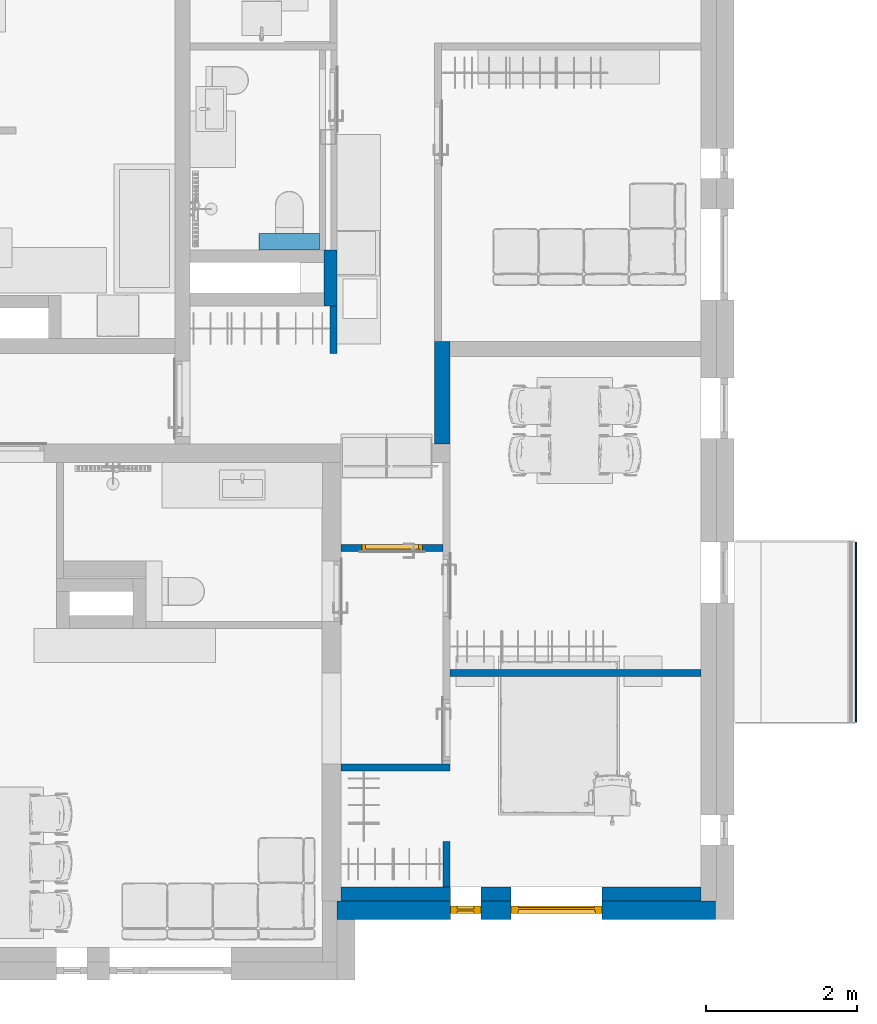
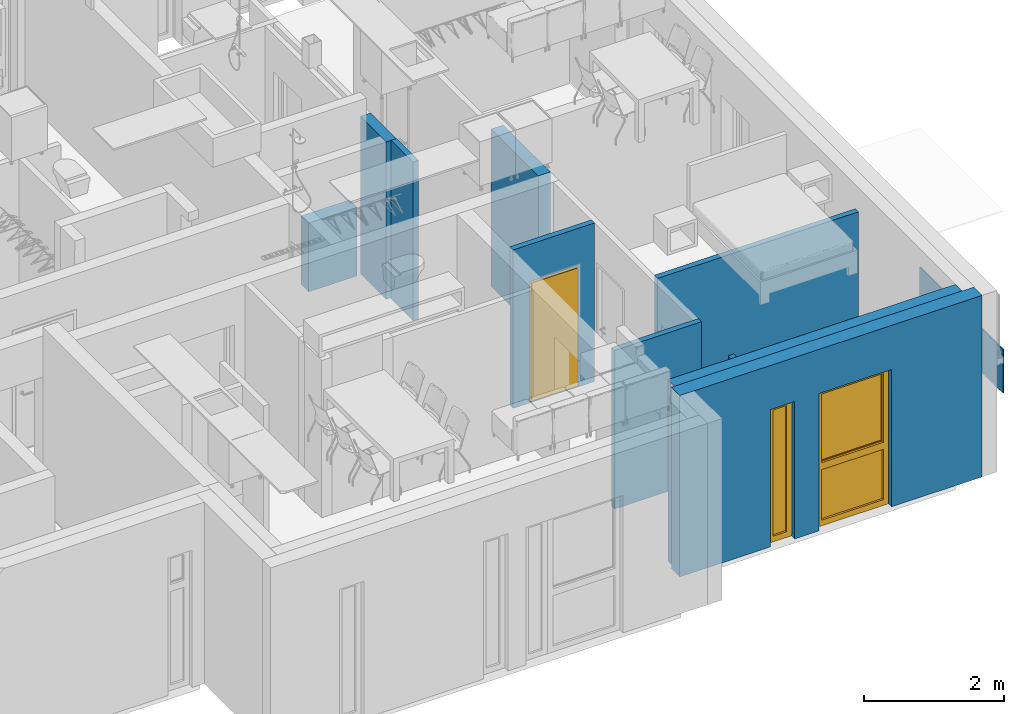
# One storey, part 7 of 68: 11 walls, 2 windows, 1 door, 5 openings.
"""IFC2X3 building model written with IfcOpenShell, lengths in millimetres."""

from ifc_helpers import new_model, entity, si_unit, converted_unit, direction, frame, frame_2d, origin, place, context, subcontext, project, spatial, rectangle, extrude, faceted_brep, source, transform, mapped, material, material_list, layer, layer_set, layer_usage, type_object, type_shapes, element, fill, save


model = new_model("IFC2X3")

# Units and contexts
model_context = context("Model", 3, precision=0.01, world=origin(), true_north=direction((6.123233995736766e-17, 1.0)))
plan_context = context("Plan", 3, precision=0.01, world=origin(), true_north=direction((6.123233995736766e-17, 1.0)))
body_context = subcontext(model_context, "Body", "Model", "MODEL_VIEW")
ifc_project = project(units=[si_unit("LENGTHUNIT", "METRE", prefix="MILLI"), converted_unit("PLANEANGLEUNIT", "DEGREE", entity("IfcPlaneAngleMeasure", 0.017453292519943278), si_unit("PLANEANGLEUNIT", "RADIAN"), dimensions=[0, 0, 0, 0, 0, 0, 0]), si_unit("AREAUNIT", "SQUARE_METRE")], contexts=[model_context, plan_context])

# Site, building, storey
site_placement = place(None, origin())
site = spatial("IfcSite", under=ifc_project, at=site_placement, Name="Default", CompositionType="ELEMENT")
building_placement = place(site_placement, origin())
building = spatial("IfcBuilding", under=site, at=building_placement, CompositionType="ELEMENT")
storey_placement = place(building_placement, frame((0.0, 0.0, 6295.0)))
storey = spatial("IfcBuildingStorey", under=building, at=storey_placement, Name="3K", CompositionType="ELEMENT", Elevation=6294.999999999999)

# Wall
ifc_material_1 = material(Name="_K. Väisviimistlus. Krohv. Valge")
ifc_layer_1 = layer(ifc_material_1, 5.0)
ifc_material_2 = material(Name="_K. Müüritis. Väikeplokk. Betoon-õõnesplokk")
ifc_layer_2 = layer(ifc_material_2, 190.00000000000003)
ifc_layer_3 = layer(ifc_material_1, 5.0)
ifc_layer_set_1 = layer_set([ifc_layer_1, ifc_layer_2, ifc_layer_3], Name="Basic Wall:SS-01. 190")
ifc_layer_usage_1 = layer_usage(ifc_layer_set_1, "AXIS2", "NEGATIVE", 100.00000000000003)
wall_type_1 = type_object("IfcWallType", Name="Basic Wall:SS-01. 190", PredefinedType="STANDARD", material=ifc_layer_set_1)
wall_1_placement = place(storey_placement, frame((13480.0, 6644.999959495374, 0.0), z_axis=(0.0, 0.0, 1.0), x_axis=(0.0, 1.0, 0.0)))
element("IfcWallStandardCase", 1, at=wall_1_placement, inside=storey, type_object=wall_type_1, material=ifc_layer_usage_1, Name="Basic Wall:SS-01. 190", ObjectType="Basic Wall:SS-01. 190", context=body_context, shape_type="SweptSolid", body=[
    extrude(rectangle(XDim=1354.999999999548, YDim=200.00000000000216, at=frame_2d((677.499999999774, 7.105427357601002e-15), x_axis=(-1.0, 0.0))), origin(), (0.0, 0.0, 1.0), 2750.000076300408),
])

# Wall, openings
ifc_layer_4 = layer(ifc_material_2, 190.00000000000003)
ifc_layer_set_2 = layer_set([ifc_layer_4], Name="Basic Wall:Columbia 190mm")
ifc_layer_usage_2 = layer_usage(ifc_layer_set_2, "AXIS2", "NEGATIVE", 95.00000000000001)
wall_type_2 = type_object("IfcWallType", Name="Basic Wall:Columbia 190mm", PredefinedType="STANDARD", material=ifc_layer_set_2)
wall_2_placement = place(storey_placement, frame((16900.0, 705.0, 0.0), z_axis=(0.0, 0.0, 1.0), x_axis=(-1.0, 0.0, 0.0)))
wall_2 = element("IfcWallStandardCase", 2, at=wall_2_placement, inside=storey, type_object=wall_type_2, material=ifc_layer_usage_2, Name="Basic Wall:Columbia 190mm", ObjectType="Basic Wall:Columbia 190mm", context=body_context, shape_type="SweptSolid", body=[
    extrude(rectangle(XDim=4755.006465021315, YDim=190.0000000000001, at=frame_2d((2377.5032325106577, 7.105427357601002e-15), x_axis=(-1.0, 0.0))), origin(), (0.0, 0.0, 1.0), 3169.999999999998),
])
opening_1_placement = place(wall_2_placement, frame((16900.0, 705.0, 0.0)))
element("IfcOpeningElement", 3, at=opening_1_placement, cuts=wall_2, Name="Basic Wall:Columbia 190mm", ObjectType="Opening", context=body_context, shape_type="Brep", body=[
    faceted_brep([(-14390.0, -350.0, 2400.0), (-14390.0, -1044.0, 2400.0), (-14390.0, -1044.0, 0.0), (-14390.0, -460.0, 0.0), (-14390.0, -450.0, 0.0), (-14390.0, -350.0, 0.0), (-15590.0, -350.0, 2400.0), (-15590.0, -1044.0, 2400.0), (-15590.0, -350.0, 0.0), (-15590.0, -450.0, 0.0), (-15590.0, -460.0, 0.0), (-15590.0, -1044.0, 0.0)], [[[0, 1, 2, 3, 4, 5]], [[6, 7, 1, 0]], [[8, 9, 10, 11, 7, 6]], [[5, 4, 3, 2, 11, 10, 9, 8]], [[6, 0, 5, 8]], [[7, 11, 2, 1]]]),
])
opening_2_placement = place(wall_2_placement, frame((16900.0, 705.0, 0.0)))
element("IfcOpeningElement", 4, at=opening_2_placement, cuts=wall_2, Name="Basic Wall:Columbia 190mm", ObjectType="Opening", context=body_context, shape_type="Brep", body=[
    faceted_brep([(-13590.0, -350.0, 2400.0), (-13590.0, -1044.0, 2400.0), (-13590.0, -1044.0, 0.0), (-13590.0, -460.0, 0.0), (-13590.0, -450.0, 0.0), (-13590.0, -350.0, 0.0), (-13990.0, -350.0, 2400.0), (-13990.0, -1044.0, 2400.0), (-13990.0, -350.0, 0.0), (-13990.0, -450.0, 0.0), (-13990.0, -460.0, 0.0), (-13990.0, -1044.0, 0.0)], [[[0, 1, 2, 3, 4, 5]], [[6, 7, 1, 0]], [[8, 9, 10, 11, 7, 6]], [[5, 4, 3, 2, 11, 10, 9, 8]], [[6, 0, 5, 8]], [[7, 11, 2, 1]]]),
])

# Wall, openings, windows
ifc_layer_5 = layer(ifc_material_1, 10.0)
ifc_material_3 = material(Name="_K. Soojustus. EPS Silver")
ifc_layer_6 = layer(ifc_material_3, 230.0)
ifc_layer_set_3 = layer_set([ifc_layer_5, ifc_layer_6], Name="Basic Wall:VS-01")
ifc_layer_usage_3 = layer_usage(ifc_layer_set_3, "AXIS2", "NEGATIVE", 120.0)
wall_type_3 = type_object("IfcWallType", Name="Basic Wall:VS-01", PredefinedType="STANDARD", material=ifc_layer_set_3)
wall_3_placement = place(storey_placement, frame((17090.0, 490.0, 0.0), z_axis=(0.0, 0.0, 1.0), x_axis=(-1.0, 0.0, 0.0)))
wall_3 = element("IfcWallStandardCase", 5, at=wall_3_placement, inside=storey, type_object=wall_type_3, material=ifc_layer_usage_3, Name="Basic Wall:VS-01", ObjectType="Basic Wall:VS-01", context=body_context, shape_type="SweptSolid", body=[
    extrude(rectangle(XDim=5000.0, YDim=240.00000000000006, at=frame_2d((2500.0, 0.0), x_axis=(1.0, 0.0))), origin(), (0.0, 0.0, 1.0), 3169.999999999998),
])
opening_3_placement = place(wall_3_placement, frame((17090.0, 490.0, 0.0), z_axis=(0.0, 0.0, 1.0), x_axis=(-1.0, 0.0, 0.0)))
opening_3 = element("IfcOpeningElement", 6, at=opening_3_placement, cuts=wall_3, Name="Basic Wall:VS-01", ObjectType="Opening", context=body_context, shape_type="Brep", body=[
    faceted_brep([(13590.0, 350.0, 2400.0), (13590.0, 1044.0, 2400.0), (13590.0, 1044.0, 0.0), (13590.0, 460.0, 0.0), (13590.0, 450.0, 0.0), (13590.0, 350.0, 0.0), (13990.0, 350.0, 2400.0), (13990.0, 1044.0, 2400.0), (13990.0, 350.0, 0.0), (13990.0, 450.0, 0.0), (13990.0, 460.0, 0.0), (13990.0, 1044.0, 0.0)], [[[0, 1, 2, 3, 4, 5]], [[6, 7, 1, 0]], [[8, 9, 10, 11, 7, 6]], [[5, 4, 3, 2, 11, 10, 9, 8]], [[6, 0, 5, 8]], [[7, 11, 2, 1]]]),
])
opening_4_placement = place(wall_3_placement, frame((17090.0, 490.0, 0.0), z_axis=(0.0, 0.0, 1.0), x_axis=(-1.0, 0.0, 0.0)))
opening_4 = element("IfcOpeningElement", 7, at=opening_4_placement, cuts=wall_3, Name="Basic Wall:VS-01", ObjectType="Opening", context=body_context, shape_type="Brep", body=[
    faceted_brep([(14390.0, 350.0, 2400.0), (14390.0, 1044.0, 2400.0), (14390.0, 1044.0, 0.0), (14390.0, 460.0, 0.0), (14390.0, 450.0, 0.0), (14390.0, 350.0, 0.0), (15590.0, 350.0, 2400.0), (15590.0, 1044.0, 2400.0), (15590.0, 350.0, 0.0), (15590.0, 450.0, 0.0), (15590.0, 460.0, 0.0), (15590.0, 1044.0, 0.0)], [[[0, 1, 2, 3, 4, 5]], [[6, 7, 1, 0]], [[8, 9, 10, 11, 7, 6]], [[5, 4, 3, 2, 11, 10, 9, 8]], [[6, 0, 5, 8]], [[7, 11, 2, 1]]]),
])
ifc_material_4 = material(Name="_K. Klaas. Pakett")
ifc_material_5 = material(Name="_K. Avatäited. Raam. PVC. RAL9005")
ifc_material_6 = material(Name="_K. Avatäited. Raam. PVC. Valge")
ifc_material_list_1 = material_list([ifc_material_4, ifc_material_5, ifc_material_6])
window_style_1 = type_object("IfcWindowStyle", Name="HR_Window_Generic_Rectangle_1x2:A-13.1200x2400.P", ConstructionType="NOTDEFINED", OperationType="NOTDEFINED", ParameterTakesPrecedence=False, Sizeable=False, material=ifc_material_list_1)
shared_shape_1 = source(origin(), body_context, "Body", "Brep", [
    faceted_brep([(78.0, -154.0, 2322.0), (1122.0, -154.0, 2322.0), (1122.0, -154.0, 1101.0), (78.0, -154.0, 1101.0), (1122.0, -179.0, 2322.0), (1122.0, -179.0, 1101.0), (78.0, -179.0, 1101.0), (78.0, -179.0, 2322.0)], [[[0, 1, 2, 3]], [[2, 1, 4, 5]], [[3, 2, 5, 6]], [[0, 3, 6, 7]], [[7, 6, 5, 4]], [[1, 0, 7, 4]]]),
    faceted_brep([(1122.0, -154.0, 2322.0), (1122.0, -154.0, 1101.0), (1122.0, -179.0, 1101.0), (1122.0, -179.0, 2322.0), (1142.0, -134.0, 2342.0), (58.0, -134.0, 2342.0), (58.0, -194.0, 2342.0), (1142.0, -194.0, 2342.0), (98.0, -154.0, 2302.0), (98.0, -134.0, 2302.0), (1102.0, -134.0, 2302.0), (1102.0, -154.0, 2302.0), (98.0, -179.0, 2302.0), (98.0, -194.0, 2302.0), (98.0, -194.0, 1121.0), (98.0, -179.0, 1121.0), (1142.0, -134.0, 1081.0), (1142.0, -194.0, 1081.0), (58.0, -194.0, 1081.0), (58.0, -134.0, 1081.0), (1102.0, -194.0, 2302.0), (1102.0, -194.0, 1121.0), (98.0, -134.0, 1121.0), (1102.0, -134.0, 1121.0), (98.0, -154.0, 1121.0), (1102.0, -154.0, 1121.0), (78.0, -154.0, 1101.0), (78.0, -179.0, 1101.0), (78.0, -154.0, 2322.0), (78.0, -179.0, 2322.0), (1102.0, -179.0, 2302.0), (1102.0, -179.0, 1121.0)], [[[0, 1, 2, 3]], [[4, 5, 6, 7]], [[8, 9, 10, 11]], [[12, 13, 14, 15]], [[16, 17, 18, 19]], [[4, 7, 17, 16]], [[13, 20, 21, 14], [7, 6, 18, 17]], [[6, 5, 19, 18]], [[5, 4, 16, 19], [10, 9, 22, 23]], [[9, 8, 24, 22]], [[25, 23, 22, 24]], [[11, 10, 23, 25]], [[1, 26, 27, 2]], [[26, 28, 29, 27]], [[28, 26, 1, 0], [8, 11, 25, 24]], [[28, 0, 3, 29]], [[20, 30, 31, 21]], [[21, 31, 15, 14]], [[29, 3, 2, 27], [30, 12, 15, 31]], [[13, 12, 30, 20]]], outer=[[True], [True], [True], [True], [True], [True], [False, True], [True], [True, False], [True], [True], [True], [True], [True], [True, False], [True], [True], [True], [True, False], [True]]),
    faceted_brep([(88.0, -194.0, 989.0), (1112.0, -194.0, 989.0), (1112.0, -194.0, 108.0), (88.0, -194.0, 108.0), (1142.0, -194.0, 1019.0), (58.0, -194.0, 1019.0), (58.0, -194.0, 78.0), (1142.0, -194.0, 78.0), (88.0, -159.0, 989.0), (88.0, -159.0, 108.0), (1112.0, -159.0, 108.0), (1142.0, -159.0, 1019.0), (1142.0, -159.0, 78.0), (58.0, -159.0, 78.0), (58.0, -159.0, 1019.0), (1112.0, -159.0, 989.0)], [[[0, 1, 2, 3], [4, 5, 6, 7]], [[8, 0, 3, 9]], [[9, 3, 2, 10]], [[11, 12, 13, 14], [15, 8, 9, 10]], [[1, 15, 10, 2]], [[6, 5, 14, 13]], [[7, 6, 13, 12]], [[4, 7, 12, 11]], [[15, 1, 0, 8]], [[5, 4, 11, 14]]], outer=[[False, True], [True], [True], [True, False], [True], [True], [True], [True], [True], [True]]),
    faceted_brep([(1142.0, -159.0, 1019.0), (58.0, -159.0, 1019.0), (58.0, -159.0, 78.0), (1142.0, -159.0, 78.0), (58.0, -134.0, 1019.0), (58.0, -134.0, 78.0), (1142.0, -134.0, 78.0), (1142.0, -134.0, 1019.0)], [[[0, 1, 2, 3]], [[2, 1, 4, 5]], [[3, 2, 5, 6]], [[0, 3, 6, 7]], [[7, 6, 5, 4]], [[1, 0, 7, 4]]]),
    faceted_brep([(58.0, -134.0, 2342.0), (58.0, -134.0, 1081.0), (1142.0, -134.0, 1081.0), (1142.0, -134.0, 2342.0), (88.0, -134.0, 2312.0), (1112.0, -134.0, 2312.0), (1112.0, -134.0, 1111.0), (88.0, -134.0, 1111.0), (1142.0, -134.0, 1019.0), (1142.0, -134.0, 78.0), (1142.0, -194.0, 78.0), (1142.0, -194.0, 1019.0), (58.0, -134.0, 78.0), (58.0, -134.0, 1019.0), (58.0, -194.0, 1019.0), (58.0, -194.0, 78.0), (1112.0, -100.0, 108.0), (88.0, -100.0, 108.0), (88.0, -134.0, 108.0), (1112.0, -134.0, 108.0), (88.0, -100.0, 989.0), (88.0, -134.0, 989.0), (1112.0, -100.0, 989.0), (1112.0, -134.0, 989.0), (1200.0, -194.0, 2400.0), (0.0, -194.0, 2400.0), (0.0, -194.0, 30.0), (1200.0, -194.0, 30.0), (58.0, -194.0, 2342.0), (1142.0, -194.0, 2342.0), (1142.0, -194.0, 1081.0), (58.0, -194.0, 1081.0), (0.0, -100.0, 2400.0), (0.0, -100.0, 30.0), (0.0, -110.0, 30.0), (0.0, -110.0, 0.0), (0.0, -184.0, 0.0), (0.0, -184.0, 30.0), (1200.0, -184.0, 30.0), (1200.0, -100.0, 2400.0), (1200.0, -184.0, 0.0), (1200.0, -110.0, 0.0), (1200.0, -110.0, 30.0), (1200.0, -100.0, 30.0), (88.0, -100.0, 2312.0), (88.0, -100.0, 1111.0), (1112.0, -100.0, 1111.0), (1112.0, -100.0, 2312.0)], [[[0, 1, 2, 3], [4, 5, 6, 7]], [[8, 9, 10, 11]], [[12, 13, 14, 15]], [[9, 12, 15, 10]], [[16, 17, 18, 19]], [[17, 20, 21, 18]], [[22, 16, 19, 23]], [[11, 10, 15, 14], [24, 25, 26, 27], [28, 29, 30, 31]], [[25, 32, 33, 34, 35, 36, 37, 26]], [[37, 38, 27, 26]], [[39, 24, 27, 38, 40, 41, 42, 43]], [[17, 16, 22, 20], [32, 39, 43, 33], [44, 45, 46, 47]], [[42, 34, 33, 43]], [[34, 42, 41, 35]], [[35, 41, 40, 36]], [[38, 37, 36, 40]], [[25, 24, 39, 32]], [[44, 47, 5, 4]], [[47, 46, 6, 5]], [[45, 44, 4, 7]], [[0, 3, 29, 28]], [[3, 2, 30, 29]], [[13, 8, 11, 14]], [[1, 0, 28, 31]], [[2, 1, 31, 30]], [[46, 45, 7, 6]], [[20, 22, 23, 21]], [[9, 8, 13, 12], [19, 18, 21, 23]]], outer=[[True, False], [True], [True], [True], [True], [True], [True], [False, True, False], [True], [True], [True], [False, True, False], [True], [True], [True], [True], [True], [True], [True], [True], [True], [True], [True], [True], [True], [True], [True], [True, False]]),
])
type_shapes(window_style_1, [shared_shape_1])
window_1_placement = place(opening_4_placement, frame((15590.0, 350.0, 0.0), z_axis=(0.0, 0.0, 1.0), x_axis=(-1.0, 0.0, 0.0)))
window_1 = element("IfcWindow", 8, at=window_1_placement, inside=storey, type_object=window_style_1, material=ifc_material_list_1, Name="HR_Window_Generic_Rectangle_1x2:A-13.1200x2400.P", ObjectType="HR_Window_Generic_Rectangle_1x2:A-13.1200x2400.P", OverallHeight=2465.0000000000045, OverallWidth=1200.0000000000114, context=body_context, shape_type="MappedRepresentation", body=[
    mapped(shared_shape_1, transform((0.0, 0.0, 0.0), scale=1.0)),
])
fill(opening_4, window_1)
ifc_material_list_2 = material_list([ifc_material_6, ifc_material_4, ifc_material_5])
window_style_2 = type_object("IfcWindowStyle", Name="HR_Window_Generic_Rectangle_1x1:A-01.400x2400.ma", ConstructionType="NOTDEFINED", OperationType="NOTDEFINED", ParameterTakesPrecedence=False, Sizeable=False, material=ifc_material_list_2)
shared_shape_2 = source(origin(), body_context, "Body", "Brep", [
    faceted_brep([(88.0, -194.0, 2312.0), (312.0, -194.0, 2312.0), (312.0, -194.0, 108.0), (88.0, -194.0, 108.0), (342.0, -194.0, 2342.0), (58.0, -194.0, 2342.0), (58.0, -194.0, 78.0), (342.0, -194.0, 78.0), (88.0, -159.0, 2312.0), (88.0, -159.0, 108.0), (312.0, -159.0, 108.0), (342.0, -159.0, 2342.0), (342.0, -159.0, 78.0), (58.0, -159.0, 78.0), (58.0, -159.0, 2342.0), (312.0, -159.0, 2312.0)], [[[0, 1, 2, 3], [4, 5, 6, 7]], [[8, 0, 3, 9]], [[9, 3, 2, 10]], [[11, 12, 13, 14], [15, 8, 9, 10]], [[1, 15, 10, 2]], [[6, 5, 14, 13]], [[7, 6, 13, 12]], [[4, 7, 12, 11]], [[15, 1, 0, 8]], [[5, 4, 11, 14]]], outer=[[False, True], [True], [True], [True, False], [True], [True], [True], [True], [True], [True]]),
    faceted_brep([(342.0, -159.0, 2342.0), (58.0, -159.0, 2342.0), (58.0, -159.0, 78.0), (342.0, -159.0, 78.0), (58.0, -134.0, 2342.0), (58.0, -134.0, 78.0), (342.0, -134.0, 78.0), (342.0, -134.0, 2342.0)], [[[0, 1, 2, 3]], [[2, 1, 4, 5]], [[3, 2, 5, 6]], [[0, 3, 6, 7]], [[7, 6, 5, 4]], [[1, 0, 7, 4]]]),
    faceted_brep([(342.0, -134.0, 78.0), (58.0, -134.0, 78.0), (58.0, -194.0, 78.0), (342.0, -194.0, 78.0), (58.0, -134.0, 2342.0), (58.0, -194.0, 2342.0), (342.0, -134.0, 2342.0), (342.0, -194.0, 2342.0), (88.0, -100.0, 108.0), (88.0, -100.0, 2312.0), (88.0, -134.0, 2312.0), (88.0, -134.0, 108.0), (312.0, -100.0, 108.0), (312.0, -134.0, 108.0), (312.0, -100.0, 2312.0), (312.0, -134.0, 2312.0), (0.0, -100.0, 2400.0), (400.0, -100.0, 2400.0), (400.0, -100.0, 30.0), (0.0, -100.0, 30.0), (400.0, -194.0, 2400.0), (0.0, -194.0, 2400.0), (0.0, -194.0, 30.0), (400.0, -194.0, 30.0), (0.0, -110.0, 30.0), (0.0, -110.0, 0.0), (0.0, -184.0, 0.0), (0.0, -184.0, 30.0), (400.0, -184.0, 30.0), (400.0, -184.0, 0.0), (400.0, -110.0, 0.0), (400.0, -110.0, 30.0)], [[[0, 1, 2, 3]], [[1, 4, 5, 2]], [[6, 0, 3, 7]], [[8, 9, 10, 11]], [[12, 8, 11, 13]], [[14, 12, 13, 15]], [[16, 17, 18, 19], [9, 8, 12, 14]], [[20, 21, 22, 23], [7, 3, 2, 5]], [[21, 16, 19, 24, 25, 26, 27, 22]], [[27, 28, 23, 22]], [[17, 20, 23, 28, 29, 30, 31, 18]], [[31, 24, 19, 18]], [[24, 31, 30, 25]], [[25, 30, 29, 26]], [[28, 27, 26, 29]], [[4, 6, 7, 5]], [[9, 14, 15, 10]], [[21, 20, 17, 16]], [[10, 15, 13, 11], [0, 6, 4, 1]]], outer=[[True], [True], [True], [True], [True], [True], [True, False], [True, False], [True], [True], [True], [True], [True], [True], [True], [True], [True], [True], [False, True]]),
])
type_shapes(window_style_2, [shared_shape_2])
window_2_placement = place(opening_3_placement, frame((13990.0, 350.0, 0.0), z_axis=(0.0, 0.0, 1.0), x_axis=(-1.0, 0.0, 0.0)))
window_2 = element("IfcWindow", 9, at=window_2_placement, inside=storey, type_object=window_style_2, material=ifc_material_list_2, Name="HR_Window_Generic_Rectangle_1x1:A-01.400x2400.ma", ObjectType="HR_Window_Generic_Rectangle_1x1:A-01.400x2400.ma", OverallHeight=2465.0000000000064, OverallWidth=400.0000000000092, context=body_context, shape_type="MappedRepresentation", body=[
    mapped(shared_shape_2, transform((0.0, 0.0, 0.0), scale=1.0)),
])
fill(opening_3, window_2)

# Wall
ifc_material_7 = material(Name="_K. Ehitusplaat. Kipsplaat. Erikõva")
ifc_layer_7 = layer(ifc_material_7, 13.000000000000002)
ifc_material_8 = material(Name="_K. Soojustus. Mineraalvill")
ifc_layer_8 = layer(ifc_material_8, 66.0)
ifc_layer_9 = layer(ifc_material_7, 13.000000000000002)
ifc_layer_set_4 = layer_set([ifc_layer_7, ifc_layer_8, ifc_layer_9], Name="Basic Wall:SS-401")
ifc_layer_usage_4 = layer_usage(ifc_layer_set_4, "AXIS2", "NEGATIVE", 46.00000000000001)
wall_type_4 = type_object("IfcWallType", Name="Basic Wall:SS-401", PredefinedType="STANDARD", material=ifc_layer_set_4)
wall_4_placement = place(storey_placement, frame((12042.0, 7839.999959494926, -20.0), z_axis=(0.0, 0.0, 1.0), x_axis=(0.0, 1.0, 0.0)))
element("IfcWallStandardCase", 10, at=wall_4_placement, inside=storey, type_object=wall_type_4, material=ifc_layer_usage_4, Name="Basic Wall:SS-401", ObjectType="Basic Wall:SS-401", context=body_context, shape_type="SweptSolid", body=[
    extrude(rectangle(XDim=630.000040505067, YDim=92.00000000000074, at=frame_2d((315.0000202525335, 5.258016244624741e-13), x_axis=(-1.0, 0.0))), origin(), (0.0, 0.0, 1.0), 2769.999999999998),
])

# Wall, opening, door
ifc_layer_usage_5 = layer_usage(ifc_layer_set_4, "AXIS2", "NEGATIVE", 46.00000000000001)
wall_5_placement = place(storey_placement, frame((13488.0, 5273.999959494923, -20.0), z_axis=(0.0, 0.0, 1.0), x_axis=(-1.0, 0.0, 0.0)))
wall_5 = element("IfcWallStandardCase", 11, at=wall_5_placement, inside=storey, type_object=wall_type_4, material=ifc_layer_usage_5, Name="Basic Wall:SS-401", ObjectType="Basic Wall:SS-401", context=body_context, shape_type="SweptSolid", body=[
    extrude(rectangle(XDim=1343.0064650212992, YDim=92.00000000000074, at=frame_2d((671.5032325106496, 2.984279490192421e-13), x_axis=(-1.0, 0.0))), origin(), (0.0, 0.0, 1.0), 2769.999999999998),
])
opening_5_placement = place(wall_5_placement, frame((13488.0, 5273.999959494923, 20.0), z_axis=(0.0, 0.0, 1.0), x_axis=(-1.0, 0.0, 0.0)))
opening_5 = element("IfcOpeningElement", 12, at=opening_5_placement, cuts=wall_5, Name="Basic Wall:SS-401", ObjectType="Opening", context=body_context, shape_type="Brep", body=[
    faceted_brep([(12418.996767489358, 6319.9999594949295, 2100.0), (13218.996767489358, 6319.999959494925, 2100.0), (13218.996767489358, 6319.999959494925, 0.0), (12418.996767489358, 6319.9999594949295, 0.0), (12418.99676748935, 4227.999959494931, 0.0), (12418.996767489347, 4227.999959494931, 2100.0), (13218.996767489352, 4227.999959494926, 0.0), (13218.996767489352, 4227.999959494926, 2100.0)], [[[0, 1, 2, 3]], [[3, 4, 5, 0]], [[2, 6, 4, 3]], [[1, 7, 6, 2]], [[5, 7, 1, 0]], [[7, 5, 4, 6]]]),
])
ifc_material_9 = material(Name="_K. Puit. Peitsitud ja lakitud")
door_style = type_object("IfcDoorStyle", Name="HR_Generic_Hinged_Single:Default. Manteluks lävepakuga. 800 x 2100 mm. Left", ConstructionType="NOTDEFINED", OperationType="NOTDEFINED", ParameterTakesPrecedence=False, Sizeable=False, material=ifc_material_9)
shared_shape_3 = source(origin(), body_context, "Body", "Brep", [
    faceted_brep([(765.0, -1000.0, 20.0), (35.0, -1000.0, 20.0), (35.0, -1030.0, 20.0), (50.0, -1030.0, 20.0), (50.0, -1092.0, 20.0), (750.0, -1092.0, 20.0), (750.0, -1030.0, 20.0), (765.0, -1030.0, 20.0), (35.0, -1000.0, 0.0), (765.0, -1000.0, 0.0), (765.0, -1030.0, 0.0), (750.0, -1030.0, 0.0), (750.0, -1092.0, 0.0), (50.0, -1092.0, 0.0), (50.0, -1030.0, 0.0), (35.0, -1030.0, 0.0)], [[[0, 1, 2, 3, 4, 5, 6, 7]], [[8, 9, 10, 11, 12, 13, 14, 15]], [[1, 0, 9, 8]], [[5, 4, 13, 12]], [[2, 1, 8, 15]], [[0, 7, 10, 9]], [[3, 14, 13, 4]], [[14, 3, 2, 15]], [[6, 11, 10, 7]], [[11, 6, 5, 12]]]),
    faceted_brep([(37.0, -1030.0, 2060.0), (37.0, -1030.0, 25.0), (763.0, -1030.0, 25.0), (763.0, -1030.0, 2060.0), (27.0, -990.0, 25.0), (27.0, -990.0, 2070.0), (773.0, -990.0, 2070.0), (773.0, -990.0, 25.0), (37.0, -1000.0, 2060.0), (37.0, -1000.0, 25.0), (27.0, -1000.0, 25.0), (773.0, -1000.0, 25.0), (763.0, -1000.0, 25.0), (763.0, -1000.0, 2060.0), (27.0, -1000.0, 2070.0), (773.0, -1000.0, 2070.0)], [[[0, 1, 2, 3]], [[4, 5, 6, 7]], [[1, 0, 8, 9]], [[2, 1, 9, 10, 4, 7, 11, 12]], [[3, 2, 12, 13]], [[0, 3, 13, 8]], [[14, 10, 9, 8, 13, 12, 11, 15]], [[6, 5, 14, 15]], [[7, 6, 15, 11]], [[5, 4, 10, 14]]]),
    faceted_brep([(800.0, -1092.0, 0.0), (750.0, -1092.0, 0.0), (750.0, -1030.0, 0.0), (765.0, -1030.0, 0.0), (765.0, -1000.0, 0.0), (800.0, -1000.0, 0.0), (800.0, -1092.0, 2100.0), (0.0, -1092.0, 2100.0), (0.0, -1092.0, 0.0), (50.0, -1092.0, 0.0), (50.0, -1092.0, 2050.0), (750.0, -1092.0, 2050.0), (750.0, -1030.0, 2050.0), (35.0, -1030.0, 2065.0), (765.0, -1030.0, 2065.0), (50.0, -1030.0, 2050.0), (50.0, -1030.0, 0.0), (35.0, -1030.0, 0.0), (765.0, -1000.0, 2065.0), (0.0, -1000.0, 0.0), (0.0, -1000.0, 2100.0), (800.0, -1000.0, 2100.0), (35.0, -1000.0, 2065.0), (35.0, -1000.0, 0.0)], [[[0, 1, 2, 3, 4, 5]], [[1, 0, 6, 7, 8, 9, 10, 11]], [[1, 11, 12, 2]], [[13, 14, 3, 2, 12, 15, 16, 17]], [[3, 14, 18, 4]], [[19, 20, 21, 5, 4, 18, 22, 23]], [[0, 5, 21, 6]], [[8, 19, 23, 17, 16, 9]], [[19, 8, 7, 20]], [[13, 17, 23, 22]], [[10, 9, 16, 15]], [[7, 6, 21, 20]], [[11, 10, 15, 12]], [[14, 13, 22, 18]]]),
])
type_shapes(door_style, [shared_shape_3])
door_placement = place(opening_5_placement, frame((13218.996767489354, 4227.999959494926, 0.0), z_axis=(0.0, 0.0, 1.0), x_axis=(-1.0, 0.0, 0.0)))
door = element("IfcDoor", 13, at=door_placement, inside=storey, type_object=door_style, material=ifc_material_9, Name="HR_Generic_Hinged_Single:Default. Manteluks lävepakuga. 800 x 2100 mm. Left", ObjectType="HR_Generic_Hinged_Single:Default. Manteluks lävepakuga. 800 x 2100 mm. Left", OverallHeight=2130.000000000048, OverallWidth=860.0000000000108, context=body_context, shape_type="MappedRepresentation", body=[
    mapped(shared_shape_3, transform((0.0, 0.0, 0.0), scale=1.0)),
])
fill(opening_5, door)

# Walls
ifc_layer_usage_6 = layer_usage(ifc_layer_set_4, "AXIS2", "NEGATIVE", 46.00000000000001)
wall_6_placement = place(storey_placement, frame((13580.0, 2373.999959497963, -20.0), z_axis=(0.0, 0.0, 1.0), x_axis=(-1.0, 0.0, 0.0)))
element("IfcWallStandardCase", 14, at=wall_6_placement, inside=storey, type_object=wall_type_4, material=ifc_layer_usage_6, Name="Basic Wall:SS-401", ObjectType="Basic Wall:SS-401", context=body_context, shape_type="SweptSolid", body=[
    extrude(rectangle(XDim=1435.0064650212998, YDim=92.0000000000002, at=frame_2d((717.5032325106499, -1.1368683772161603e-13), x_axis=(-1.0, 0.0))), origin(), (0.0, 0.0, 1.0), 2769.999999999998),
])
ifc_layer_usage_7 = layer_usage(ifc_layer_set_4, "AXIS2", "NEGATIVE", 46.00000000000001)
wall_7_placement = place(storey_placement, frame((13534.0, 800.0, -20.0), z_axis=(0.0, 0.0, 1.0), x_axis=(0.0, 1.0, 0.0)))
element("IfcWallStandardCase", 15, at=wall_7_placement, inside=storey, type_object=wall_type_4, material=ifc_layer_usage_7, Name="Basic Wall:SS-401", ObjectType="Basic Wall:SS-401", context=body_context, shape_type="SweptSolid", body=[
    extrude(rectangle(XDim=600.0000000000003, YDim=92.00000000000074, at=frame_2d((300.00000000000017, 5.009326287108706e-13), x_axis=(-1.0, 0.0))), origin(), (0.0, 0.0, 1.0), 2769.999999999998),
])
ifc_layer_usage_8 = layer_usage(ifc_layer_set_4, "AXIS2", "NEGATIVE", 46.00000000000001)
wall_8_placement = place(storey_placement, frame((16900.0, 3626.0, -20.0), z_axis=(0.0, 0.0, 1.0), x_axis=(-1.0, 0.0, 0.0)))
element("IfcWallStandardCase", 16, at=wall_8_placement, inside=storey, type_object=wall_type_4, material=ifc_layer_usage_8, Name="Basic Wall:SS-401", ObjectType="Basic Wall:SS-401", context=body_context, shape_type="SweptSolid", body=[
    extrude(rectangle(XDim=3320.000000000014, YDim=91.99999999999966, at=frame_2d((1660.000000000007, 1.3855583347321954e-13), x_axis=(-1.0, 0.0))), origin(), (0.0, 0.0, 1.0), 2769.999999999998),
])
ifc_layer_10 = layer(ifc_material_1, 10.0)
ifc_material_10 = material(Name="_K. Müüritis. Väikeplokk. Kergkruusplokk")
ifc_layer_11 = layer(ifc_material_10, 150.0)
ifc_layer_12 = layer(ifc_material_1, 10.0)
ifc_layer_set_5 = layer_set([ifc_layer_10, ifc_layer_11, ifc_layer_12], Name="Basic Wall:SS-03. Šahti sein")
ifc_layer_usage_9 = layer_usage(ifc_layer_set_5, "AXIS2", "NEGATIVE", 85.00000000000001)
wall_type_5 = type_object("IfcWallType", Name="Basic Wall:SS-03. Šahti sein", PredefinedType="STANDARD", material=ifc_layer_set_5)
wall_9_placement = place(storey_placement, frame((12003.0, 9210.0, 0.0), z_axis=(0.0, 0.0, 1.0), x_axis=(0.0, -1.0, 0.0)))
element("IfcWallStandardCase", 17, at=wall_9_placement, inside=storey, type_object=wall_type_5, material=ifc_layer_usage_9, Name="Basic Wall:SS-03. Šahti sein", ObjectType="Basic Wall:SS-03. Šahti sein", context=body_context, shape_type="SweptSolid", body=[
    extrude(rectangle(XDim=739.9999999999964, YDim=170.00000000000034, at=frame_2d((369.9999999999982, 4.973799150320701e-13), x_axis=(-1.0, 0.0))), origin(), (0.0, 0.0, 1.0), 2749.9998014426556),
])
ifc_material_11 = material(Name="_K. Välisviimistlus. Alumiinium-komposiitplaat")
ifc_layer_13 = layer(ifc_material_11, 4.0)
ifc_material_12 = material(Name="_K. Õhk. Roov. Fassaadikatte alusroov. Horisontaalne. 25 mm")
ifc_layer_14 = layer(ifc_material_12, 16.0)
ifc_layer_set_6 = layer_set([ifc_layer_13, ifc_layer_14], Name="Basic Wall:VS-komposiit")
ifc_layer_usage_10 = layer_usage(ifc_layer_set_6, "AXIS2", "NEGATIVE", 10.000000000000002)
wall_type_6 = type_object("IfcWallType", Name="Basic Wall:VS-komposiit", PredefinedType="STANDARD")
wall_10_placement = place(storey_placement, frame((18942.0, 5351.353411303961, -762.5000000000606), z_axis=(0.0, 0.0, 1.0), x_axis=(0.0, -1.0, 0.0)))
element("IfcWallStandardCase", 18, at=wall_10_placement, inside=storey, type_object=wall_type_6, material=ifc_layer_usage_10, Name="Basic Wall:VS-komposiit", ObjectType="Basic Wall:VS-komposiit", context=body_context, shape_type="SweptSolid", body=[
    extrude(rectangle(XDim=2379.349331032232, YDim=19.999999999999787, at=frame_2d((1189.674665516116, 9.174883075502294e-13), x_axis=(-1.0, 0.0))), origin(), (0.0, 0.0, 1.0), 762.5000000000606),
])
ifc_layer_15 = layer(ifc_material_7, 13.000000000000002)
ifc_material_13 = material(Name="_K. Õhk. Roov. Fassaadikatte alusroov. Vertikaalne. 25 mm")
ifc_layer_16 = layer(ifc_material_13, 200.0)
ifc_layer_set_7 = layer_set([ifc_layer_15, ifc_layer_16], Name="Basic Wall:SS-403")
ifc_layer_usage_11 = layer_usage(ifc_layer_set_7, "AXIS2", "POSITIVE", -106.5)
wall_type_7 = type_object("IfcWallType", Name="Basic Wall:SS-403", PredefinedType="STANDARD", material=ifc_layer_set_7)
wall_11_placement = place(storey_placement, frame((11862.0, 9316.499999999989, -20.0), z_axis=(0.0, 0.0, 1.0), x_axis=(-1.0, 0.0, 0.0)))
element("IfcWallStandardCase", 19, at=wall_11_placement, inside=storey, type_object=wall_type_7, material=ifc_layer_usage_11, Name="Basic Wall:SS-403", ObjectType="Basic Wall:SS-403", context=body_context, shape_type="SweptSolid", body=[
    extrude(rectangle(XDim=800.0, YDim=212.99999999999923, at=frame_2d((400.0, 4.263256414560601e-14), x_axis=(-1.0, 0.0))), origin(), (0.0, 0.0, 1.0), 1200.0),
])

save(model, "model.ifc")
